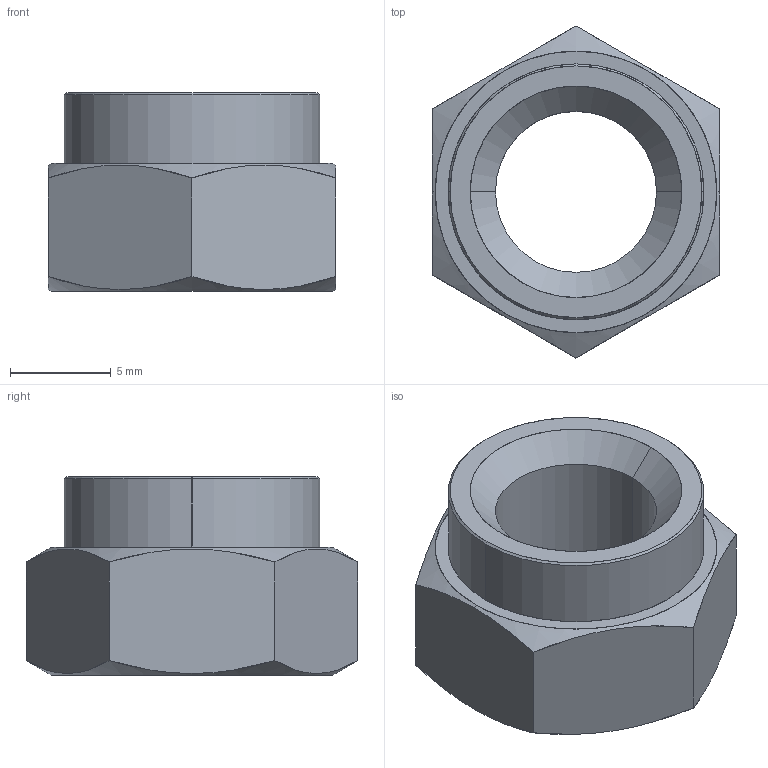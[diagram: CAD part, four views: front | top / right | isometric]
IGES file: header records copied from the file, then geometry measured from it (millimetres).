
Start section: SolidWorks IGES file using analytic representation for surfaces
Global section: file name: C:\Users\liam_\OneDrive\Desktop\Work\Mat Davis Pending 20181125\automotion\P SERIES\P0827.ZP_v2\P0827.ZP_v2_20181231_IGES\P0827.080-10G-ZP.igs; native system: SolidWorks 2017; preprocessor: SolidWorks 2017; author: liam_; date: 181231.110941; units: millimetre
Bounding box: 14.27 x 16.48 x 9.85 mm (x, y, z)
Surface area: 895.3 mm2 (no closed solid volume)
Topology: 0 solids, 0 shells, 23 faces, 424 edges, 424 vertices
Faces by surface type: revolution 14, bspline 9
